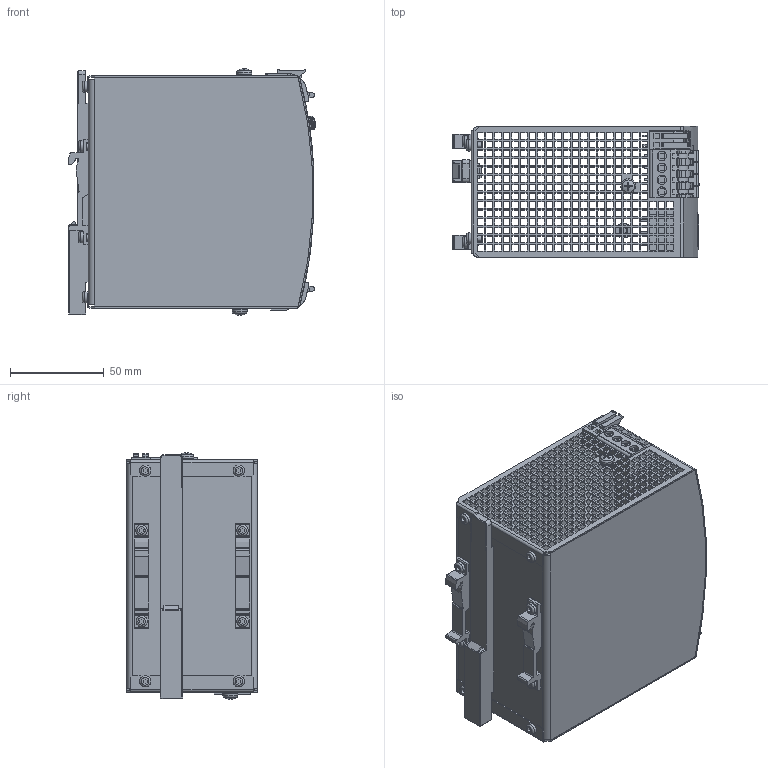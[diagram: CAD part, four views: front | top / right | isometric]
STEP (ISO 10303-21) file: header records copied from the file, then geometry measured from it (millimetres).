
FILE_DESCRIPTION((''),'2;1');
FILE_NAME('C:\Dokumente und Einstellungen\raabk\Eigene Dateien\tmp\362.01.stp','2008-11-25T09:57:23',('raabk'),(''),'Autodesk Inventor 2009','Autodesk Inventor 2009','');
FILE_SCHEMA(('AUTOMOTIVE_DESIGN { 1 0 10303 214 1 1 1 1 }'));
Length unit declared in the file: millimetre
Products named in the file (14): 362.01; HOUSING BODY 362.01; HOUSING COVER 362.01; T HOLDER; SLIDER; SCREW 3x6; WASHER 4; SCREW 4x8; POTENTIOMETER COVER; TERMINAL 4P R6,35; TERMINAL 2P R5; TERMINAL 3P R6,35; LED GN; LED RD
Assembly tree (23 placements, depth 2):
  362.01
    HOUSING BODY 362.01
    HOUSING COVER 362.01
    T HOLDER  x2
    SLIDER
    SCREW 3x6  x8
    WASHER 4  x2
    SCREW 4x8  x2
    POTENTIOMETER COVER
    TERMINAL 4P R6,35
    TERMINAL 2P R5
    TERMINAL 3P R6,35
    LED GN
    LED RD
Bounding box: 131.92 x 70 x 131.73 mm (x, y, z)
Volume: 96977.4 mm3; surface area: 134831.6 mm2
Topology: 23 solids, 23 shells, 3943 faces, 11334 edges, 7542 vertices
Faces by surface type: plane 3296, cylinder 312, bspline 253, torus 34, cone 34, sphere 14
Full cylindrical faces by diameter (mm): 1 x2, 1.25 x7, 3 x8, 3.1 x4, 3.621 x2, 4 x2, 4.199 x1, 4.355 x1, 4.5 x4, 4.6 x2, 4.899 x1, 5 x7, 6 x8
Entity records: 130544 total; most frequent: CARTESIAN_POINT 29822, ORIENTED_EDGE 21574, DIRECTION 18122, EDGE_CURVE 10787, VECTOR 9400, LINE 9400, VERTEX_POINT 7197, EDGE_LOOP 5104
